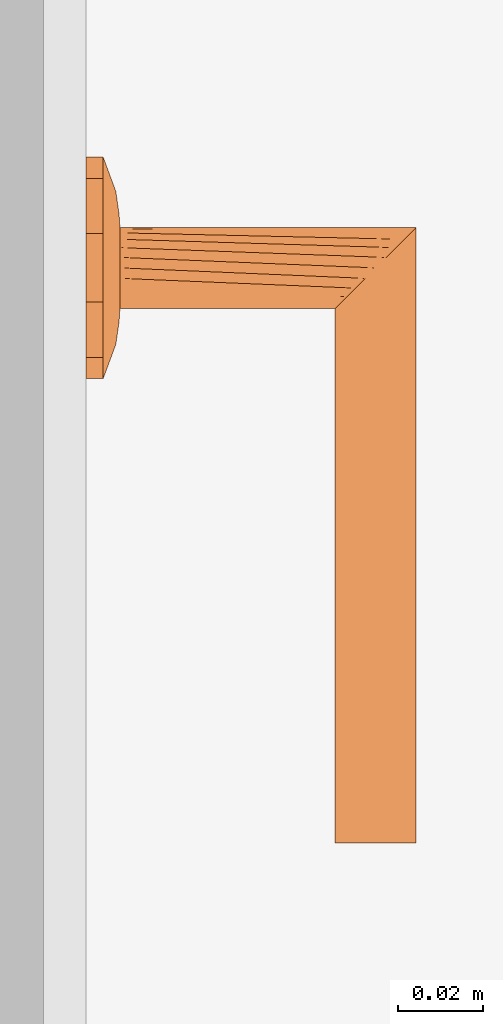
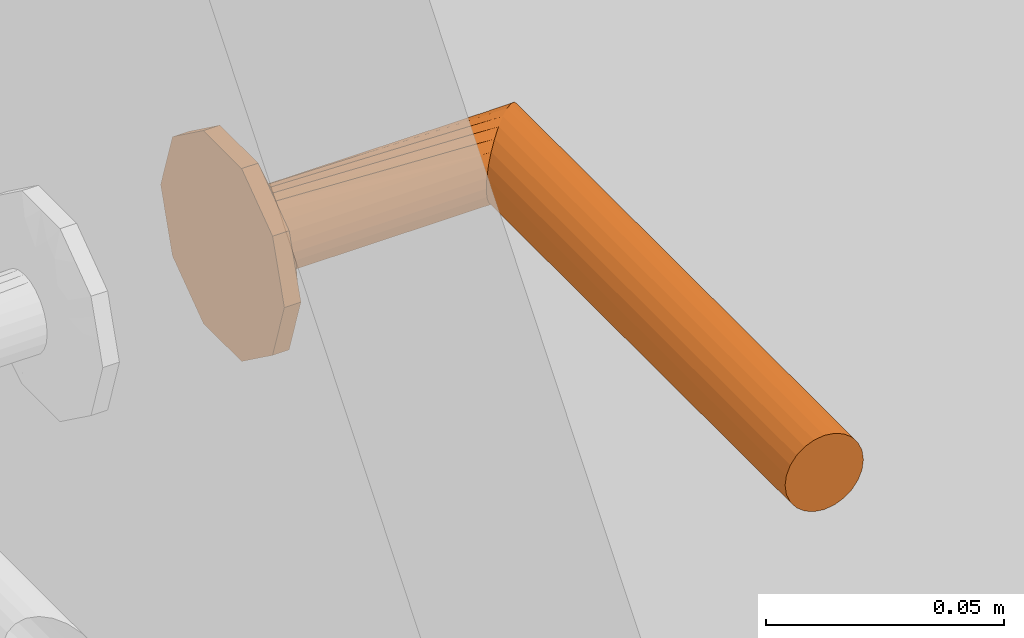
# One storey, part 39 of 42: 1 proxy.
"""IFC2X3 building model written with IfcOpenShell, lengths in millimetres."""

from ifc_helpers import new_model, entity, si_unit, converted_unit, direction, frame, origin, place, context, subcontext, project, spatial, faceted_brep, source, transform, mapped, material, type_object, type_shapes, element, save


model = new_model("IFC2X3")

# Units and contexts
model_context = context("Model", 3, precision=0.01, world=origin(), true_north=direction((6.123233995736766e-17, 1.0)))
plan_context = context("Plan", 3, precision=0.01, world=origin(), true_north=direction((6.123233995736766e-17, 1.0)))
body_context = subcontext(model_context, "Body", "Model", "MODEL_VIEW")
ifc_project = project(units=[si_unit("LENGTHUNIT", "METRE", prefix="MILLI"), converted_unit("PLANEANGLEUNIT", "DEGREE", entity("IfcPlaneAngleMeasure", 0.017453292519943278), si_unit("PLANEANGLEUNIT", "RADIAN"), dimensions=[0, 0, 0, 0, 0, 0, 0]), si_unit("AREAUNIT", "SQUARE_METRE")], contexts=[model_context, plan_context])

# Site, building, storey, space
site_placement = place(None, origin())
site = spatial("IfcSite", under=ifc_project, at=site_placement, Name="Default", CompositionType="ELEMENT")
building_placement = place(site_placement, origin())
building = spatial("IfcBuilding", under=site, at=building_placement, CompositionType="ELEMENT")
storey_placement = place(building_placement, frame((0.0, 0.0, 9465.000076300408)))
storey = spatial("IfcBuildingStorey", under=building, at=storey_placement, Name="4K", CompositionType="ELEMENT", Elevation=9465.000076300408)
space_placement = place(storey_placement, origin())
space = spatial("IfcSpace", under=storey, at=space_placement, Name="4-10.2", CompositionType="ELEMENT", InteriorOrExteriorSpace="INTERNAL")

# Proxy
ifc_material = material(Name="<Unnamed>")
building_element_proxy_type = type_object("IfcBuildingElementProxyType", Name="Door-handle_Lever_ABLOY_INOXI_3-19ss-002_RT:Default", PredefinedType="NOTDEFINED", material=ifc_material)
shared_shape = source(origin(), body_context, "Body", "Brep", [
    faceted_brep([(0.0, 0.0, 0.0), (21.034441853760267, -15.282416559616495, 0.0), (14.534441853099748, -20.00494299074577, 0.0), (8.034441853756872, -24.72746942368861, 0.0), (0.0, -24.72746942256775, 0.0), (23.51722092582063, -7.6412082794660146, 0.0), (26.0, 0.0, 0.0), (-8.034441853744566, -24.727469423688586, 0.0), (-14.534441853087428, -20.00494299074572, 0.0), (-21.03444185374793, -15.282416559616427, 0.0), (-23.517220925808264, -7.641208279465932, 0.0), (-26.0, 0.0, 0.0), (-23.517220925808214, 7.641208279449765, 0.0), (23.517220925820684, 7.641208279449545, 0.0), (21.034441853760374, 15.282416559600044, 0.0), (14.53444185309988, 20.00494299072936, 0.0), (8.034441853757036, 24.72746942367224, 0.0), (-21.034441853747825, 15.282416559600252, 0.0), (-14.53444185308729, 20.004942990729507, 0.0), (-8.0344418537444, 24.72746942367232, 0.0), (0.0, 24.72746942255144, 0.0), (0.0, 0.0, 8.0), (4.7500000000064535, -8.227241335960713, 8.0), (5.937500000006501, -6.170431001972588, 8.0), (7.125000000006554, -4.113620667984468, 8.0), (8.312500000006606, -2.0568103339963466, 8.0), (9.500000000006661, 0.0, 8.0), (8.312500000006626, 2.056810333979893, 8.0), (2.3750000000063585, -8.227241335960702, 8.0), (0.0, -8.227241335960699, 8.0), (-2.3749999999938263, -8.227241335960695, 8.0), (-4.749999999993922, -8.227241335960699, 8.0), (-5.937499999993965, -6.170431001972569, 8.0), (-7.124999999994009, -4.113620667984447, 8.0), (-8.312499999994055, -2.056810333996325, 8.0), (-9.499999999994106, 0.0, 8.0), (7.125000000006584, 4.113620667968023, 8.0), (5.937500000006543, 6.170431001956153, 8.0), (4.750000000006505, 8.227241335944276, 8.0), (2.3750000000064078, 8.22724133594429, 8.0), (-8.31249999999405, 2.0568103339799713, 8.0), (-7.12499999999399, 4.113620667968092, 8.0), (-5.9374999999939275, 6.170431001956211, 8.0), (-4.74999999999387, 8.227241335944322, 8.0), (0.0, 8.227241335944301, 8.0), (-2.374999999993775, 8.227241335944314, 8.0), (-22.488765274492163, -10.806469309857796, 4.030771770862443), (-16.663919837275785, -7.932665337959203, 6.877259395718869), (-20.643071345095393, -6.292822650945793, 5.929480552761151), (-12.50457926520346, -5.179566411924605, 7.774932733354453), (-16.764060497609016, -3.820257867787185, 7.1747985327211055), (-9.071726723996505, -10.311606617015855, 7.7520782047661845), (-11.963426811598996, -8.625290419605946, 7.618343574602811), (-11.979136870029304, -13.678312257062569, 6.945778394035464), (5.7585542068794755, -20.96753300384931, 5.871476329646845), (0.0, -24.72746942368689, 4.030771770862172), (8.03444185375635, -24.727469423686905, 4.030771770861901), (16.66391982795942, -7.932665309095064, 6.877259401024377), (22.488765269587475, -10.806469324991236, 4.03077177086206), (20.64307133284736, -6.29282258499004, 5.929480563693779), (14.534441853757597, -20.004942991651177, 4.030771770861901), (9.499431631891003, -18.64368355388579, 6.154325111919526), (-15.783149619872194, -11.991003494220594, 6.50080018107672), (-21.034441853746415, -15.282416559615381, 4.030771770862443), (-14.53444185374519, -20.00494299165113, 4.030771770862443), (-23.012042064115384, 0.0, 5.135401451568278), (-23.943088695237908, -6.330522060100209, 4.030771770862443), (11.96342678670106, -8.62529049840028, 7.618343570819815), (12.504579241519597, -5.179566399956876, 7.774932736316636), (16.764060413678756, -3.8202578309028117, 7.17479855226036), (15.783149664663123, -11.991003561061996, 6.50080015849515), (17.985351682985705, 0.0, 6.993737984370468), (23.012042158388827, 0.0, 5.135401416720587), (8.661516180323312, -10.478936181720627, 7.768126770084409), (-8.03444185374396, -24.727469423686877, 4.030771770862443), (-3.3573143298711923, -21.197247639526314, 5.971427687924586), (-9.941915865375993, -17.061976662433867, 6.522757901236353), (-5.973257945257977, -16.430139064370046, 7.110979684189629), (-7.711266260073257, -12.760344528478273, 7.594456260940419), (11.979136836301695, -13.678312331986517, 6.945778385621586), (7.511307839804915, -13.358932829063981, 7.529187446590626), (5.953298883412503, -16.50608604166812, 7.096344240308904), (-1.5654593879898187, -15.307443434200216, 7.519134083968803), (-7.784980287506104, -20.476295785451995, 5.812837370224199), (2.8135289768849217, -17.76392260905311, 6.993737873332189), (-17.98535168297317, 0.0, 6.993737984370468), (-26.0, 0.0, 4.030771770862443), (-23.51722092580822, -7.641208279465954, 4.030771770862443), (23.943088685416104, -6.33052209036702, 4.030771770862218), (24.308823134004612, -5.204907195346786, 4.030771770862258), (26.0, 0.0, 4.030771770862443), (21.03444185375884, -15.282416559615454, 4.030771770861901), (22.617646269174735, -10.40981439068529, 4.030771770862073), (22.488765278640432, 10.806469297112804, 4.030771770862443), (16.66391984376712, 7.932665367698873, 6.877259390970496), (20.643071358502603, 6.292822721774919, 5.929480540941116), (12.504579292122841, 5.179566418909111, 7.774932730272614), (16.764060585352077, 3.8202579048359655, 7.174798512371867), (9.07172672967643, 10.31160659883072, 7.752078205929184), (11.963426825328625, 8.62529034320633, 7.618343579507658), (11.979136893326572, 13.67831220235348, 6.9457784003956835), (-5.758554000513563, 20.96753314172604, 5.8714763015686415), (0.0, 24.72746942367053, 4.030771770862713), (-8.03444185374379, 24.72746942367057, 4.030771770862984), (-16.663919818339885, 7.932665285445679, 6.877259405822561), (-22.48876526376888, 10.806469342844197, 4.030771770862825), (-20.643071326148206, 6.2928225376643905, 5.929480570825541), (-14.534441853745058, 20.004942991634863, 4.030771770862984), (-9.499431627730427, 18.643683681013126, 6.154325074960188), (15.783149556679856, 11.991003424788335, 6.5008002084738), (21.03444185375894, 15.282416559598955, 4.030771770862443), (14.534441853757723, 20.004942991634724, 4.030771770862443), (23.943088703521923, 6.330522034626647, 4.030771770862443), (-11.96342675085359, 8.625290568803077, 7.618343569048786), (-12.504579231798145, 5.179566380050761, 7.77493273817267), (-16.764060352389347, 3.820257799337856, 7.174798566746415), (-15.78314967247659, 11.991003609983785, 6.500800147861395), (-8.661516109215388, 10.478936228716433, 7.768126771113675), (8.034441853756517, 24.727469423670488, 4.030771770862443), (3.3573144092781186, 21.197247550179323, 5.971427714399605), (9.941915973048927, 17.061976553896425, 6.522757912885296), (5.9732581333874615, 16.430139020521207, 7.110979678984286), (7.711266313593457, 12.760344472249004, 7.5944562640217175), (-11.979136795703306, 13.678312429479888, 6.945778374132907), (-7.511307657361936, 13.358932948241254, 7.5291874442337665), (-5.9532988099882, 16.50608628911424, 7.096344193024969), (1.5654596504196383, 15.3074431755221, 7.519134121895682), (7.784980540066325, 20.476295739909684, 5.812837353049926), (-2.81352881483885, 17.76392263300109, 6.993737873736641), (23.51722092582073, 7.6412082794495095, 4.030771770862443), (-23.94308867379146, 6.330522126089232, 4.030771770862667), (-24.308823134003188, 5.20490719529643, 4.030771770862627), (-21.034441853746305, 15.282416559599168, 4.030771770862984), (-22.617646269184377, 10.409814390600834, 4.0307717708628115)], [[[0, 1, 2]], [[0, 2, 3]], [[0, 3, 4]], [[0, 5, 1]], [[0, 6, 5]], [[0, 4, 7]], [[0, 7, 8]], [[0, 8, 9]], [[0, 9, 10]], [[0, 10, 11]], [[0, 11, 12]], [[0, 13, 6]], [[0, 14, 13]], [[0, 15, 14]], [[0, 16, 15]], [[0, 12, 17]], [[0, 17, 18]], [[0, 18, 19]], [[0, 19, 20]], [[0, 20, 16]], [[21, 22, 23]], [[21, 23, 24]], [[21, 24, 25]], [[21, 25, 26]], [[21, 26, 27]], [[21, 28, 22]], [[21, 29, 28]], [[21, 30, 29]], [[21, 31, 30]], [[21, 32, 31]], [[21, 33, 32]], [[21, 34, 33]], [[21, 35, 34]], [[21, 27, 36]], [[21, 36, 37]], [[21, 37, 38]], [[21, 38, 39]], [[21, 40, 35]], [[21, 41, 40]], [[21, 42, 41]], [[21, 43, 42]], [[21, 39, 44]], [[21, 44, 45]], [[21, 45, 43]], [[46, 47, 48]], [[47, 49, 50]], [[49, 33, 34]], [[51, 52, 53]], [[49, 52, 33]], [[48, 47, 50]], [[54, 55, 56]], [[57, 58, 59]], [[56, 60, 61]], [[62, 63, 64]], [[65, 66, 48]], [[67, 57, 68]], [[68, 69, 25]], [[57, 67, 70]], [[69, 26, 25]], [[62, 53, 52]], [[71, 69, 72]], [[67, 23, 73]], [[74, 55, 75]], [[76, 77, 78]], [[79, 60, 70]], [[69, 59, 72]], [[80, 81, 61]], [[77, 30, 78]], [[82, 30, 77]], [[28, 80, 22]], [[77, 83, 75]], [[75, 82, 77]], [[55, 84, 75]], [[85, 50, 35]], [[24, 68, 25]], [[82, 84, 29]], [[84, 82, 75]], [[31, 78, 30]], [[82, 29, 30]], [[34, 35, 50]], [[52, 49, 47]], [[62, 52, 47]], [[34, 50, 49]], [[53, 78, 51]], [[32, 33, 52]], [[85, 65, 50]], [[66, 65, 86]], [[67, 68, 24]], [[77, 76, 83]], [[65, 48, 50]], [[63, 62, 46]], [[48, 66, 87, 46]], [[62, 47, 46]], [[69, 68, 57]], [[80, 73, 22]], [[70, 67, 79]], [[67, 24, 23]], [[72, 88, 89, 90]], [[69, 71, 26]], [[59, 69, 57]], [[61, 60, 79]], [[62, 64, 53]], [[91, 58, 70]], [[72, 59, 88]], [[57, 70, 58]], [[59, 58, 92]], [[80, 61, 79]], [[91, 70, 60]], [[61, 81, 54]], [[73, 80, 79]], [[28, 84, 81]], [[67, 73, 79]], [[29, 84, 28]], [[22, 73, 23]], [[51, 31, 32]], [[76, 78, 53]], [[53, 64, 76]], [[83, 64, 74]], [[64, 83, 76]], [[75, 83, 74]], [[31, 51, 78]], [[52, 51, 32]], [[28, 81, 80]], [[54, 81, 84]], [[55, 54, 84]], [[61, 54, 56]], [[93, 94, 95]], [[94, 96, 97]], [[96, 36, 27]], [[98, 99, 100]], [[96, 99, 36]], [[95, 94, 97]], [[101, 102, 103]], [[104, 105, 106]], [[103, 107, 108]], [[109, 110, 111]], [[72, 112, 95]], [[113, 104, 114]], [[114, 115, 40]], [[104, 113, 116]], [[115, 35, 40]], [[109, 100, 99]], [[85, 115, 65]], [[113, 42, 117]], [[118, 102, 119]], [[120, 121, 122]], [[123, 107, 116]], [[115, 106, 65]], [[124, 125, 108]], [[121, 39, 122]], [[126, 39, 121]], [[45, 124, 43]], [[121, 127, 119]], [[119, 126, 121]], [[102, 128, 119]], [[71, 97, 26]], [[41, 114, 40]], [[126, 128, 44]], [[128, 126, 119]], [[38, 122, 39]], [[126, 44, 39]], [[27, 26, 97]], [[99, 96, 94]], [[109, 99, 94]], [[27, 97, 96]], [[100, 122, 98]], [[37, 36, 99]], [[71, 72, 97]], [[112, 72, 90]], [[113, 114, 41]], [[121, 120, 127]], [[72, 95, 97]], [[110, 109, 93]], [[95, 112, 129, 93]], [[109, 94, 93]], [[115, 114, 104]], [[124, 117, 43]], [[116, 113, 123]], [[113, 41, 42]], [[65, 130, 131, 86]], [[115, 85, 35]], [[106, 115, 104]], [[108, 107, 123]], [[109, 111, 100]], [[132, 105, 116]], [[65, 106, 130]], [[104, 116, 105]], [[106, 105, 133]], [[124, 108, 123]], [[132, 116, 107]], [[108, 125, 101]], [[117, 124, 123]], [[45, 128, 125]], [[113, 117, 123]], [[44, 128, 45]], [[43, 117, 42]], [[98, 38, 37]], [[120, 122, 100]], [[100, 111, 120]], [[127, 111, 118]], [[111, 127, 120]], [[119, 127, 118]], [[38, 98, 122]], [[99, 98, 37]], [[45, 125, 124]], [[101, 125, 128]], [[102, 101, 128]], [[108, 101, 103]], [[7, 74, 64, 63, 9, 8]], [[10, 9, 63, 46, 87, 66, 86, 11]], [[6, 90, 89, 88, 92, 1, 5]], [[1, 58, 91]], [[74, 7, 4, 3, 56, 55]], [[60, 56, 3, 2, 1, 91]], [[1, 92, 58]], [[14, 110, 93, 129, 112, 90, 6, 13]], [[111, 110, 14, 15, 16, 118]], [[11, 86, 131, 130, 133, 17, 12]], [[17, 105, 132]], [[118, 16, 20, 19, 103, 102]], [[107, 103, 19, 18, 17, 132]], [[17, 133, 105]], [[59, 92, 88]], [[106, 133, 130]]]),
    faceted_brep([(4.7499999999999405, -8.22724133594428, 8.0), (2.4587809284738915, -9.176295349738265, 8.0), (0.0, -9.499999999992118, 8.0), (-2.4587809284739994, -9.176295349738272, 8.0), (-4.7500000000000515, -8.227241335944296, 8.0), (-6.717514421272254, -6.717514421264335, 8.0), (-8.227241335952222, -4.74999999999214, 8.0), (-9.176295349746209, -2.4587809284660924, 8.0), (-9.500000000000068, 0.0, 8.0), (-9.176295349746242, 2.458780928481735, 8.0), (-8.227241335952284, 4.750000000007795, 8.0), (-6.717514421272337, 6.717514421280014, 8.0), (-4.750000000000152, 8.227241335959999, 8.0), (-2.4587809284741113, 9.176295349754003, 8.0), (0.0, 9.500000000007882, 8.0), (2.4587809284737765, 9.176295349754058, 8.0), (4.7499999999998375, 8.227241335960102, 8.0), (6.717514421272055, 6.717514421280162, 8.0), (8.22724133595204, 4.75000000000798, 8.0), (9.17629534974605, 2.458780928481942, 8.0), (9.499999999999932, 0.0, 8.0), (9.17629534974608, -2.458780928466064, 8.0), (8.227241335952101, -4.749999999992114, 8.0), (6.717514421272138, -6.7175144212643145, 8.0), (-8.227241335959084, 4.7499999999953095, 59.772758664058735), (-6.717514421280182, 6.7175144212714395, 61.282485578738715), (-9.176295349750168, 2.458780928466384, 58.82370465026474), (-4.750000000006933, 8.227241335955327, 63.25000000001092), (-2.4587809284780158, 9.176295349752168, 65.54121907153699), (-9.500000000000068, 0.0, 58.50000000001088), (0.0, 9.50000000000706, 68.0), (4.750000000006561, 8.227241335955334, 72.75000000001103), (2.4587809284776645, 9.17629534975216, 70.45878092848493), (6.717514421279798, 6.7175144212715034, 74.71751442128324), (8.22724133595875, 4.749999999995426, 76.22724133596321), (9.17629534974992, 2.458780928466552, 77.17629534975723), (9.499999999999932, 0.0, 77.50000000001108), (9.176295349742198, -2.4587809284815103, 77.1762953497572), (8.227241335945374, -4.750000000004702, 76.22724133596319), (6.7175144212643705, -6.717514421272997, 74.7175144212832), (4.749999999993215, -8.227241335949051, 72.75000000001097), (2.4587809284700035, -9.17629534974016, 70.45878092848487), (0.0, -9.49999999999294, 68.0), (-2.4587809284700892, -9.176295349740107, 65.54121907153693), (-4.749999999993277, -8.227241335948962, 63.250000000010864), (-6.717514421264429, -6.717514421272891, 61.282485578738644), (-9.176295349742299, -2.458780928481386, 58.8237046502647), (-8.227241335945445, -4.750000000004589, 59.77275866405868), (-135.0, -9.176295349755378, 70.4587809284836), (-135.0, -8.227241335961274, 72.75000000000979), (-135.0, -6.717514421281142, 74.71751442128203), (-135.0, -4.750000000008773, 76.22724133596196), (-135.0, -2.4587809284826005, 77.17629534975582), (-135.0, 0.0, 77.5000000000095), (-135.0, 2.4587809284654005, 77.17629534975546), (-135.0, 4.749999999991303, 76.22724133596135), (-135.0, 6.717514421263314, 74.71751442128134), (-135.0, 8.227241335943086, 72.75000000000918), (-135.0, 9.17629534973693, 70.45878092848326), (-135.0, 9.499999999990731, 68.0), (-135.0, 9.17629534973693, 65.54121907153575), (-135.0, 8.227241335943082, 63.250000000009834), (-135.0, 6.717514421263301, 61.28248557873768), (-135.0, 4.749999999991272, 59.772758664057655), (-135.0, 2.458780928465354, 58.823704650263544), (-135.0, 0.0, 58.50000000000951), (-135.0, -2.458780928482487, 58.82370465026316), (-135.0, -4.750000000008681, 59.772758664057), (-135.0, -6.7175144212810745, 61.28248557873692), (-135.0, -8.227241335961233, 63.25000000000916), (-135.0, -9.176295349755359, 65.54121907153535), (-135.0, -9.500000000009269, 68.0)], [[[0, 1, 2, 3, 4, 5, 6, 7, 8, 9, 10, 11, 12, 13, 14, 15, 16, 17, 18, 19, 20, 21, 22, 23]], [[24, 25, 11, 10]], [[26, 24, 10, 9]], [[14, 27, 28]], [[13, 27, 14]], [[25, 27, 13]], [[29, 26, 9, 8]], [[12, 11, 25]], [[25, 13, 12]], [[28, 30, 15]], [[31, 17, 32]], [[33, 18, 31]], [[19, 34, 35]], [[33, 34, 19]], [[20, 19, 35, 36]], [[16, 15, 30]], [[14, 28, 15]], [[19, 18, 33]], [[17, 31, 18]], [[17, 16, 32]], [[30, 32, 16]], [[20, 36, 37, 21]], [[38, 21, 37]], [[22, 39, 40]], [[38, 39, 21]], [[23, 40, 41]], [[39, 22, 21]], [[1, 42, 43]], [[42, 1, 0]], [[23, 41, 0]], [[23, 22, 40]], [[41, 42, 0]], [[44, 45, 3]], [[43, 44, 2]], [[46, 29, 8, 7]], [[47, 46, 7, 6]], [[45, 47, 6, 5]], [[45, 4, 3]], [[3, 2, 44]], [[5, 4, 45]], [[43, 2, 1]], [[48, 49, 50, 51, 52, 53, 54, 55, 56, 57, 58, 59, 60, 61, 62, 63, 64, 65, 66, 67, 68, 69, 70, 71]], [[64, 63, 24, 26]], [[65, 64, 26, 29]], [[61, 60, 28, 27]], [[62, 61, 27, 25]], [[63, 62, 25, 24]], [[59, 30, 28, 60]], [[57, 56, 33, 31]], [[58, 57, 31, 32]], [[54, 53, 36, 35]], [[55, 54, 35, 34]], [[56, 55, 34, 33]], [[32, 30, 59, 58]], [[52, 51, 38, 37]], [[53, 52, 37, 36]], [[49, 48, 41, 40]], [[50, 49, 40, 39]], [[51, 50, 39, 38]], [[42, 41, 48, 71]], [[69, 68, 45, 44]], [[70, 69, 44, 43]], [[66, 65, 29, 46]], [[67, 66, 46, 47]], [[68, 67, 47, 45]], [[42, 71, 70, 43]]]),
])
type_shapes(building_element_proxy_type, [shared_shape])
proxy_placement = place(space_placement, frame((12078.0, 11616.0, 1000.0), z_axis=(1.0, 0.0, 0.0), x_axis=(0.0, 1.0, 0.0)))
element("IfcBuildingElementProxy", 1, at=proxy_placement, inside=space, type_object=building_element_proxy_type, material=ifc_material, Name="Door-handle_Lever_ABLOY_INOXI_3-19ss-002_RT:Default", ObjectType="Door-handle_Lever_ABLOY_INOXI_3-19ss-002_RT:Default", context=body_context, shape_type="MappedRepresentation", body=[
    mapped(shared_shape, transform((0.0, 0.0, 0.0), scale=1.0)),
])

save(model, "model.ifc")
